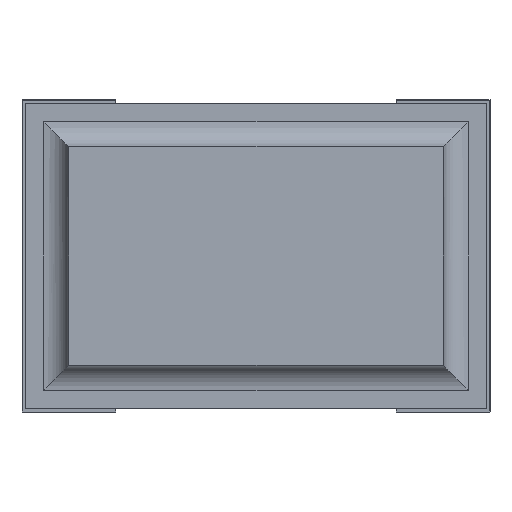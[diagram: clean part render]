
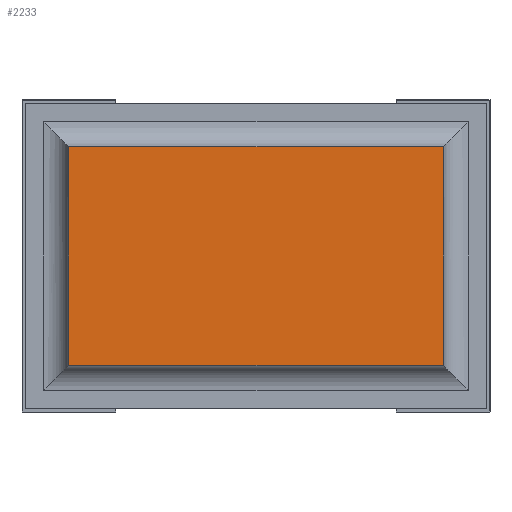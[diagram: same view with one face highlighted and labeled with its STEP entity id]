
A CAD part, front view. The second image highlights one B-rep face of the part: STEP entity #2233.
In plain terms, the highlighted planar face has unit normal (0, -1, 0).
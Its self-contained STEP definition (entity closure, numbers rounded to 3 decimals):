
#159=FACE_OUTER_BOUND('',#284,.T.);
#284=EDGE_LOOP('',(#1779,#1780,#1781,#1782));
#497=LINE('',#3465,#777);
#500=LINE('',#3471,#780);
#501=LINE('',#3474,#781);
#502=LINE('',#3475,#782);
#777=VECTOR('',#2825,10.);
#780=VECTOR('',#2830,10.);
#781=VECTOR('',#2833,10.);
#782=VECTOR('',#2834,10.);
#1027=VERTEX_POINT('',#3461);
#1028=VERTEX_POINT('',#3463);
#1030=VERTEX_POINT('',#3469);
#1031=VERTEX_POINT('',#3473);
#1295=EDGE_CURVE('',#1027,#1028,#497,.T.);
#1298=EDGE_CURVE('',#1030,#1028,#500,.T.);
#1299=EDGE_CURVE('',#1031,#1030,#501,.T.);
#1300=EDGE_CURVE('',#1027,#1031,#502,.T.);
#1779=ORIENTED_EDGE('',*,*,#1298,.F.);
#1780=ORIENTED_EDGE('',*,*,#1299,.F.);
#1781=ORIENTED_EDGE('',*,*,#1300,.F.);
#1782=ORIENTED_EDGE('',*,*,#1295,.T.);
#2118=PLANE('',#2411);
#2233=ADVANCED_FACE('',(#159),#2118,.T.);
#2411=AXIS2_PLACEMENT_3D('',#3472,#2831,#2832);
#2825=DIRECTION('',(0.,0.,-1.));
#2830=DIRECTION('',(-1.,0.,0.));
#2831=DIRECTION('center_axis',(0.,-1.,0.));
#2832=DIRECTION('ref_axis',(0.,0.,-1.));
#2833=DIRECTION('',(0.,0.,-1.));
#2834=DIRECTION('',(1.,0.,0.));
#3461=CARTESIAN_POINT('',(0.075,0.,0.425));
#3463=CARTESIAN_POINT('',(0.075,0.,0.075));
#3465=CARTESIAN_POINT('',(0.075,0.,0.425));
#3469=CARTESIAN_POINT('',(0.675,0.,0.075));
#3471=CARTESIAN_POINT('',(0.675,0.,0.075));
#3472=CARTESIAN_POINT('Origin',(0.676,0.,0.25));
#3473=CARTESIAN_POINT('',(0.675,0.,0.425));
#3474=CARTESIAN_POINT('',(0.675,0.,0.425));
#3475=CARTESIAN_POINT('',(0.075,0.,0.425));
